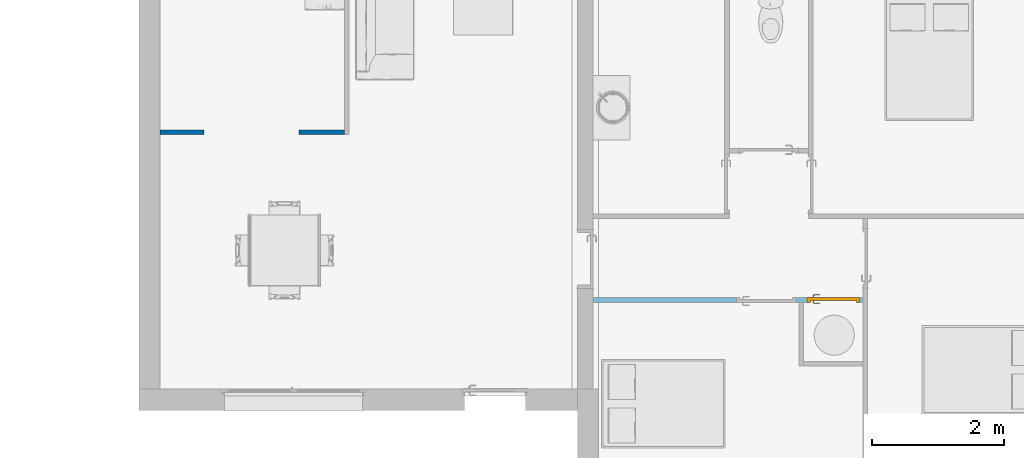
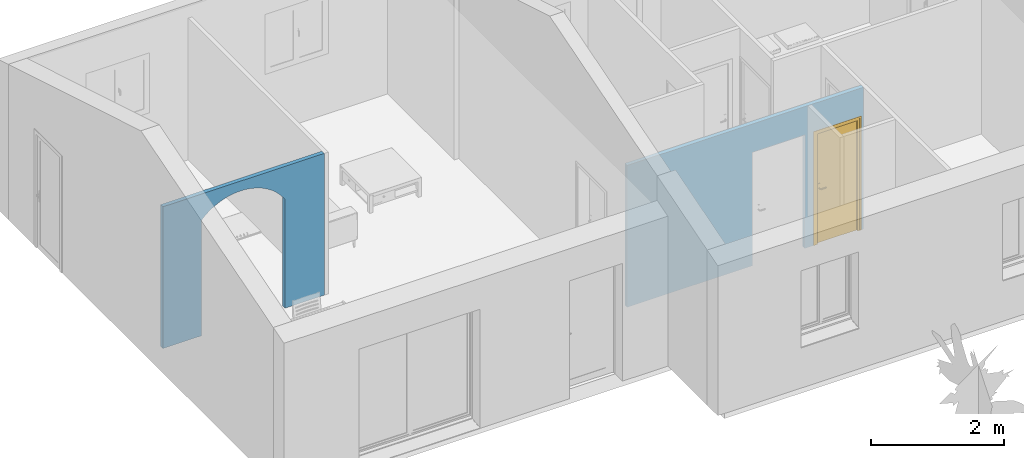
# One storey, part 10 of 18: 1 door, 1 wall, 2 openings, plus 1 element that does not belong to this part.
"""IFC2X3 building model written with IfcOpenShell, lengths in metres."""

import ifcopenshell
import ifcopenshell.guid

model = None  # the IFC model being written
_history = None  # IfcOwnerHistory: only IFC2X3 demands one
_inside = {}  # id of a spatial element -> (the spatial element, [elements in it])
_under = {}  # id of a project, library or spatial element -> (it, [spatial elements below it])
_declared = {}  # id of a project -> (the project, [libraries it declares])
_typed = {}  # id of a type object -> (the type object, [elements of that type])
_made_of = {}  # id of a material, layer set ... -> (it, [elements and type objects made of it])


def new_model(schema):
    """Start an empty IFC model of exactly this schema.

    Asked for "IFC4X3", IfcOpenShell would pick the latest addendum, in which some entities
    have other attributes; the version numbers below select the first issue.
    IFC2X3 requires an IfcOwnerHistory on every rooted entity: one is made here for all.
    """
    global model, _history
    if schema == "IFC4X3":
        model = ifcopenshell.file(schema_version=(4, 3, 0, 0))
    else:
        model = ifcopenshell.file(schema=schema)
    _inside.clear()
    _under.clear()
    _declared.clear()
    _typed.clear()
    _made_of.clear()
    _history = None
    if model.schema == "IFC2X3":
        org = make("IfcOrganization", Name="unknown")
        user = make(
            "IfcPersonAndOrganization",
            ThePerson=make("IfcPerson", FamilyName="unknown"),
            TheOrganization=org,
        )
        app = make(
            "IfcApplication",
            ApplicationDeveloper=org,
            Version="unknown",
            ApplicationFullName="unknown",
            ApplicationIdentifier="unknown",
        )
        _history = make(
            "IfcOwnerHistory",
            OwningUser=user,
            OwningApplication=app,
            ChangeAction="ADDED",
            CreationDate=0,
        )
    return model


def make(cls, **values):
    """One entity of the class cls with the attributes given. An attribute that is None is left unset."""
    return model.create_entity(
        cls, **{name: value for name, value in values.items() if value is not None}
    )


def entity(cls, *values):
    """Any entity or typed value of the class cls, its attributes in the order of the schema. None: left unset."""
    e = model.create_entity(cls)
    for i, value in enumerate(values):
        if value is not None:
            e[i] = value
    return e


def rooted(cls, **values):
    """An entity with a GlobalId (a new one), such as an element, a storey or a relation."""
    return make(cls, GlobalId=ifcopenshell.guid.new(), OwnerHistory=_history, **values)


def si_unit(unit_type, name, prefix=None):
    """IfcSIUnit, for example si_unit("LENGTHUNIT", "METRE", prefix="MILLI")."""
    return make("IfcSIUnit", UnitType=unit_type, Prefix=prefix, Name=name)


def converted_unit(unit_type, name, factor, base, dimensions=None, offset=None):
    """IfcConversionBasedUnit, such as the inch: factor (a typed value) times the base unit."""
    return make(
        "IfcConversionBasedUnit"
        if offset is None
        else "IfcConversionBasedUnitWithOffset",
        ConversionOffset=offset,
        Dimensions=None
        if dimensions is None
        else entity("IfcDimensionalExponents", *dimensions),
        UnitType=unit_type,
        Name=name,
        ConversionFactor=make(
            "IfcMeasureWithUnit", ValueComponent=factor, UnitComponent=base
        ),
    )


def derived_unit(unit_type, elements):
    """IfcDerivedUnit: a product of units, each with its exponent."""
    return make(
        "IfcDerivedUnit",
        Elements=[
            make("IfcDerivedUnitElement", Unit=unit, Exponent=power)
            for unit, power in elements
        ],
        UnitType=unit_type,
    )


def assignment(units):
    """IfcUnitAssignment: the units of a project."""
    return None if units is None else make("IfcUnitAssignment", Units=units)


def point(xyz):
    """IfcCartesianPoint."""
    return None if xyz is None else make("IfcCartesianPoint", Coordinates=xyz)


def direction(xyz):
    """IfcDirection."""
    return None if xyz is None else make("IfcDirection", DirectionRatios=xyz)


def frame(location, z_axis=None, x_axis=None):
    """IfcAxis2Placement3D, a coordinate frame: its origin and axes. An axis left out is left unset."""
    return make(
        "IfcAxis2Placement3D",
        Location=point(location),
        Axis=direction(z_axis),
        RefDirection=direction(x_axis),
    )


def frame_2d(location, x_axis=None):
    """IfcAxis2Placement2D, a coordinate frame in the plane: its origin and x axis."""
    return make(
        "IfcAxis2Placement2D", Location=point(location), RefDirection=direction(x_axis)
    )


def origin():
    """The frame at (0, 0, 0) with its axes left unset."""
    return frame((0.0, 0.0, 0.0))


def place(relative_to, where):
    """IfcLocalPlacement: puts the frame where relative to a parent placement (None: the world)."""
    return make(
        "IfcLocalPlacement", PlacementRelTo=relative_to, RelativePlacement=where
    )


def context(
    kind, dimensions, precision=None, world=None, true_north=None, identifier=None
):
    """IfcGeometricRepresentationContext, for example the 3D "Model" context."""
    return make(
        "IfcGeometricRepresentationContext",
        ContextIdentifier=identifier,
        ContextType=kind,
        CoordinateSpaceDimension=dimensions,
        Precision=precision,
        WorldCoordinateSystem=world,
        TrueNorth=true_north,
    )


def subcontext(parent, identifier, kind, view, scale=None):
    """IfcGeometricRepresentationSubContext, for example "Body" below "Model"."""
    return make(
        "IfcGeometricRepresentationSubContext",
        ContextIdentifier=identifier,
        ContextType=kind,
        ParentContext=parent,
        TargetScale=scale,
        TargetView=view,
    )


def project(units=None, contexts=None):
    """IfcProject with its units and contexts."""
    return rooted(
        "IfcProject",
        Name="project",
        RepresentationContexts=contexts,
        UnitsInContext=assignment(units),
    )


def spatial(cls, under=None, at=None, **own):
    """A site, building, storey or space (cls), placed at a placement, below another one or the project."""
    s = rooted(cls, ObjectPlacement=at, **own)
    if under is not None:
        _under.setdefault(under.id(), (under, []))[1].append(s)
    return s


def profile(cls, at=None, kind="AREA", **sizes):
    """A parametric profile (cls). Its sizes go by their IFC names, for example OverallWidth=200.0."""
    return make(cls, ProfileType=kind, Position=at, **sizes)


def rectangle(**sizes):
    """IfcRectangleProfileDef."""
    return profile("IfcRectangleProfileDef", **sizes)


def extrude(swept, where, along, depth):
    """IfcExtrudedAreaSolid: the profile swept, set in the frame where, extruded along a direction by depth."""
    return make(
        "IfcExtrudedAreaSolid",
        SweptArea=swept,
        Position=where,
        ExtrudedDirection=direction(along),
        Depth=depth,
    )


def faces_of(points, faces, orient=None, outer=None):
    """IfcFace entities. A face is a list of loops; a loop is a list of indices into points, from 0.

    orient and outer hold one flag for each loop. By default every Orientation is true, the
    first loop of a face is its IfcFaceOuterBound and the others are IfcFaceBound.
    """
    made = []
    for i, loops in enumerate(faces):
        bounds = []
        for j, loop in enumerate(loops):
            is_outer = j == 0 if outer is None else outer[i][j]
            bounds.append(
                make(
                    "IfcFaceOuterBound" if is_outer else "IfcFaceBound",
                    Bound=make("IfcPolyLoop", Polygon=[points[k] for k in loop]),
                    Orientation=True if orient is None else orient[i][j],
                )
            )
        made.append(make("IfcFace", Bounds=bounds))
    return made


def faceted_brep(points, faces, orient=None, outer=None, voids=None):
    """IfcFacetedBrep: a solid bounded by flat faces; with voids (closed shells), ...WithVoids."""
    shared = [point(p) for p in points]
    hull = make("IfcClosedShell", CfsFaces=faces_of(shared, faces, orient, outer))
    if voids is None:
        return make("IfcFacetedBrep", Outer=hull)
    return make(
        "IfcFacetedBrepWithVoids",
        Outer=hull,
        Voids=[
            make(cls, CfsFaces=faces_of(shared, fs, o, b)) for cls, fs, o, b in voids
        ],
    )


def shape(context_of_items, identifier, shape_type, items):
    """IfcShapeRepresentation: the items that make up one representation, for example the "Body"."""
    return make(
        "IfcShapeRepresentation",
        ContextOfItems=context_of_items,
        RepresentationIdentifier=identifier,
        RepresentationType=shape_type,
        Items=items,
    )


def source(mapping_origin, context_of_items, identifier, shape_type, items):
    """IfcRepresentationMap: a shape defined once, which mapped items show again and again."""
    return make(
        "IfcRepresentationMap",
        MappingOrigin=mapping_origin,
        MappedRepresentation=shape(context_of_items, identifier, shape_type, items),
    )


def transform(
    local_origin,
    x_axis=None,
    y_axis=None,
    z_axis=None,
    scale=None,
    scale2=None,
    scale3=None,
    uniform=True,
):
    """IfcCartesianTransformationOperator3D, or its non-uniform kind. x_axis, y_axis, z_axis: its Axis1, 2, 3."""
    if uniform:
        return make(
            "IfcCartesianTransformationOperator3D",
            Axis1=direction(x_axis),
            Axis2=direction(y_axis),
            LocalOrigin=point(local_origin),
            Scale=scale,
            Axis3=direction(z_axis),
        )
    return make(
        "IfcCartesianTransformationOperator3DnonUniform",
        Axis1=direction(x_axis),
        Axis2=direction(y_axis),
        LocalOrigin=point(local_origin),
        Scale=scale,
        Axis3=direction(z_axis),
        Scale2=scale2,
        Scale3=scale3,
    )


def mapped(mapping_source, mapping_target):
    """IfcMappedItem: shows the shape of a source again, moved by a transform."""
    return make(
        "IfcMappedItem", MappingSource=mapping_source, MappingTarget=mapping_target
    )


def material(Name=None, Category=None):
    """IfcMaterial."""
    return make("IfcMaterial", Name=Name, Category=Category)


def material_list(materials):
    """IfcMaterialList."""
    return make("IfcMaterialList", Materials=materials)


def layer(
    of_material, thickness, ventilated=None, Name=None, Category=None, Priority=None
):
    """IfcMaterialLayer: one layer of a wall or slab, of a material (None: an air gap)."""
    return make(
        "IfcMaterialLayer",
        Material=of_material,
        LayerThickness=thickness,
        IsVentilated=ventilated,
        Name=Name,
        Category=Category,
        Priority=Priority,
    )


def layer_set(layers, Name=None):
    """IfcMaterialLayerSet."""
    return make("IfcMaterialLayerSet", MaterialLayers=layers, LayerSetName=Name)


def layer_usage(for_layer_set, set_direction, sense, offset, extent=None):
    """IfcMaterialLayerSetUsage: how a layer set lies in its element."""
    return make(
        "IfcMaterialLayerSetUsage",
        ForLayerSet=for_layer_set,
        LayerSetDirection=set_direction,
        DirectionSense=sense,
        OffsetFromReferenceLine=offset,
        ReferenceExtent=extent,
    )


def made_of(thing, what):
    """Note that an element or type object is made of a material, layer set ...; save() writes the relation."""
    if what is not None:
        _made_of.setdefault(what.id(), (what, []))[1].append(thing)
    return thing


def type_object(cls, material=None, **own):
    """A type object (cls), such as IfcWallType, which elements share."""
    return made_of(rooted(cls, **own), material)


def type_shapes(of_type, sources):
    """Give a type object the sources (RepresentationMaps) that its elements show as mapped items."""
    of_type.RepresentationMaps = sources


def element(
    cls,
    number,
    at=None,
    inside=None,
    cuts=None,
    type_object=None,
    material=None,
    context=None,
    identifier="Body",
    shape_type=None,
    held_by="IfcProductDefinitionShape",
    body=None,
    shapes=None,
    **own,
):
    """One element of the class cls, such as IfcWall. Its Tag is "e" and its number.

    at: its placement. inside: the storey or other place that contains it. cuts: it is an
    opening in that element (IfcRelVoidsElement). A single representation is given by context,
    identifier, shape_type and body (its items); several are given by shapes. held_by: the class
    of the entity that holds the representations. save() writes the other relations.
    """
    e = rooted(cls, Tag="e%d" % number, ObjectPlacement=at, **own)
    if body is not None:
        shapes = [shape(context, identifier, shape_type, body)]
    if shapes is not None:
        e.Representation = make(held_by, Representations=shapes)
    if inside is not None:
        _inside.setdefault(inside.id(), (inside, []))[1].append(e)
    if cuts is not None:
        rooted(
            "IfcRelVoidsElement", RelatingBuildingElement=cuts, RelatedOpeningElement=e
        )
    if type_object is not None:
        _typed.setdefault(type_object.id(), (type_object, []))[1].append(e)
    return made_of(e, material)


def fill(opening, filler):
    """IfcRelFillsElement: the door or window that sits in an opening."""
    return rooted(
        "IfcRelFillsElement",
        RelatingOpeningElement=opening,
        RelatedBuildingElement=filler,
    )


def aggregate(whole, parts):
    """IfcRelAggregates: a whole, such as a stair, and the parts it consists of."""
    return rooted("IfcRelAggregates", RelatingObject=whole, RelatedObjects=parts)


def save(model, path):
    """Write the relations noted so far, then the file.

    IfcRelAggregates (storeys below a building ...), IfcRelContainedInSpatialStructure (elements
    in a storey), IfcRelDefinesByType, IfcRelAssociatesMaterial and IfcRelDeclares: one each for
    every whole, place, type object, material and project.
    """
    for whole, parts in _under.values():
        aggregate(whole, parts)
    for where, things in _inside.values():
        rooted(
            "IfcRelContainedInSpatialStructure",
            RelatedElements=things,
            RelatingStructure=where,
        )
    for kind, things in _typed.values():
        rooted("IfcRelDefinesByType", RelatedObjects=things, RelatingType=kind)
    for what, things in _made_of.values():
        rooted("IfcRelAssociatesMaterial", RelatedObjects=things, RelatingMaterial=what)
    for by, libraries in _declared.values():
        rooted("IfcRelDeclares", RelatingContext=by, RelatedDefinitions=libraries)
    model.write(path)


model = new_model("IFC2X3")

# Units and contexts
model_context = context("Model", 3, precision=1e-05, world=origin(), true_north=direction((6.12303176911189e-17, 1.0)))
body_context = subcontext(model_context, "Body", "Model", "MODEL_VIEW")
ifc_project = project(units=[si_unit("LENGTHUNIT", "METRE"), si_unit("AREAUNIT", "SQUARE_METRE"), si_unit("VOLUMEUNIT", "CUBIC_METRE"), converted_unit("PLANEANGLEUNIT", "DEGREE", entity("IfcRatioMeasure", 0.0174532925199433), si_unit("PLANEANGLEUNIT", "RADIAN"), dimensions=[0, 0, 0, 0, 0, 0, 0]), si_unit("MASSUNIT", "GRAM", prefix="KILO"), derived_unit("MASSDENSITYUNIT", [(si_unit("MASSUNIT", "GRAM", prefix="KILO"), 1), (si_unit("LENGTHUNIT", "METRE"), -3)]), derived_unit("MOMENTOFINERTIAUNIT", [(si_unit("LENGTHUNIT", "METRE"), 4)]), si_unit("TIMEUNIT", "SECOND"), si_unit("FREQUENCYUNIT", "HERTZ"), si_unit("THERMODYNAMICTEMPERATUREUNIT", "DEGREE_CELSIUS"), derived_unit("THERMALTRANSMITTANCEUNIT", [(si_unit("MASSUNIT", "GRAM", prefix="KILO"), 1), (si_unit("THERMODYNAMICTEMPERATUREUNIT", "KELVIN"), -1), (si_unit("TIMEUNIT", "SECOND"), -3)]), derived_unit("VOLUMETRICFLOWRATEUNIT", [(si_unit("LENGTHUNIT", "METRE"), 3), (si_unit("TIMEUNIT", "SECOND"), -1)]), si_unit("ELECTRICCURRENTUNIT", "AMPERE"), si_unit("ELECTRICVOLTAGEUNIT", "VOLT"), si_unit("POWERUNIT", "WATT"), si_unit("FORCEUNIT", "NEWTON", prefix="KILO"), si_unit("ILLUMINANCEUNIT", "LUX"), si_unit("LUMINOUSFLUXUNIT", "LUMEN"), si_unit("LUMINOUSINTENSITYUNIT", "CANDELA"), derived_unit("USERDEFINED", [(si_unit("MASSUNIT", "GRAM", prefix="KILO"), -1), (si_unit("LENGTHUNIT", "METRE"), -2), (si_unit("TIMEUNIT", "SECOND"), 3), (si_unit("LUMINOUSFLUXUNIT", "LUMEN"), 1)]), derived_unit("LINEARVELOCITYUNIT", [(si_unit("LENGTHUNIT", "METRE"), 1), (si_unit("TIMEUNIT", "SECOND"), -1)]), si_unit("PRESSUREUNIT", "PASCAL"), derived_unit("USERDEFINED", [(si_unit("LENGTHUNIT", "METRE"), -2), (si_unit("MASSUNIT", "GRAM", prefix="KILO"), 1), (si_unit("TIMEUNIT", "SECOND"), -2)]), derived_unit("LINEARFORCEUNIT", [(si_unit("MASSUNIT", "GRAM", prefix="KILO"), 1), (si_unit("LENGTHUNIT", "METRE"), 1), (si_unit("TIMEUNIT", "SECOND"), -2), (si_unit("LENGTHUNIT", "METRE"), -1)]), derived_unit("PLANARFORCEUNIT", [(si_unit("MASSUNIT", "GRAM", prefix="KILO"), 1), (si_unit("LENGTHUNIT", "METRE"), 1), (si_unit("TIMEUNIT", "SECOND"), -2), (si_unit("LENGTHUNIT", "METRE"), -2)])], contexts=[model_context])

# Site, building, storey
site_placement = place(None, origin())
site = spatial("IfcSite", under=ifc_project, at=site_placement, Name="Surface", CompositionType="ELEMENT")
building_placement = place(site_placement, origin())
building = spatial("IfcBuilding", under=site, at=building_placement, CompositionType="ELEMENT")
storey_placement = place(building_placement, origin())
storey = spatial("IfcBuildingStorey", under=building, at=storey_placement, Name="RDC", CompositionType="ELEMENT", Elevation=-1.94916083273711e-14)

# Wall
ifc_material_1 = material(Name="Mur par défaut")
ifc_layer = layer(ifc_material_1, 0.07)
ifc_layer_set = layer_set([ifc_layer], Name="Mur de base:Int. Plâtre 70 mm")
wall_type = type_object("IfcWallType", Name="Mur de base:Int. Plâtre 70 mm", PredefinedType="STANDARD", material=ifc_layer_set)
wall_1_placement = place(storey_placement, frame((-14.8882926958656, 4.61237977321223, 0.0), z_axis=(0.0, 0.0, 1.0), x_axis=(-1.0, 0.0, 0.0)))
element("IfcWall", 1, at=wall_1_placement, inside=storey, type_object=wall_type, Name="Mur de base:Int. Plâtre 70 mm", ObjectType="Mur de base:Int. Plâtre 70 mm", context=body_context, shape_type="Brep", body=[
    faceted_brep([(0.0, -0.0349999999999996, 0.0), (0.68576908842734, -0.0349999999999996, 0.0), (0.685769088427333, -0.0349999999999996, 2.0), (0.747140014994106, -0.0349999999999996, 2.08476964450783), (0.817826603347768, -0.0349999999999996, 2.16194275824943), (0.896896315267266, -0.0349999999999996, 2.23050122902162), (0.983306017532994, -0.0349999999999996, 2.28954059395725), (1.07591574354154, -0.0349999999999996, 2.33828197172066), (1.17350373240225, -0.0349999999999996, 2.3760823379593), (1.2747825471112, -0.0349999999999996, 2.40244300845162), (1.37841605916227, -0.0349999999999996, 2.41701621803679), (1.48303707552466, -0.0349999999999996, 2.4196097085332), (1.58726537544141, -0.0349999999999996, 2.41018926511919), (1.68972591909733, -0.0349999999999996, 2.38887916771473), (1.78906698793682, -0.0349999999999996, 2.35596055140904), (1.88397801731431, -0.0349999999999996, 2.31186769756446), (1.9732068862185, -0.0349999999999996, 2.25718230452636), (2.05557643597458, -0.0349999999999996, 2.19262581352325), (2.13, -0.0349999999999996, 2.11904989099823), (2.13, -0.0349999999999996, 0.0), (2.8, -0.0349999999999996, 0.0), (2.8, -0.0349999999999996, 2.6), (0.0, -0.0349999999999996, 2.6), (2.8, 0.0350000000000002, 0.0), (2.13, 0.0350000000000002, 0.0), (2.13, 0.0350000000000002, 2.11904989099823), (2.05557643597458, 0.0350000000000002, 2.19262581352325), (1.9732068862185, 0.0350000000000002, 2.25718230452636), (1.88397801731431, 0.0350000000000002, 2.31186769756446), (1.78906698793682, 0.0350000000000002, 2.35596055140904), (1.68972591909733, 0.0350000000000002, 2.38887916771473), (1.58726537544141, 0.0350000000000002, 2.41018926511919), (1.48303707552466, 0.0350000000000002, 2.4196097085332), (1.37841605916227, 0.0350000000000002, 2.41701621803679), (1.2747825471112, 0.0350000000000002, 2.40244300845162), (1.17350373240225, 0.0350000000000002, 2.3760823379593), (1.07591574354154, 0.0350000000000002, 2.33828197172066), (0.983306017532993, 0.0350000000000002, 2.28954059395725), (0.896896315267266, 0.0350000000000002, 2.23050122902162), (0.817826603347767, 0.0350000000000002, 2.16194275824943), (0.747140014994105, 0.0350000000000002, 2.08476964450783), (0.685769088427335, 0.0350000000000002, 2.0), (0.685769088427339, 0.0350000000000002, 0.0), (0.0, 0.0350000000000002, 0.0), (0.0, 0.0350000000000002, 2.6), (2.8, 0.0350000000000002, 2.6)], [[[0, 1, 2, 3, 4, 5, 6, 7, 8, 9, 10, 11, 12, 13, 14, 15, 16, 17, 18, 19, 20, 21, 22]], [[23, 24, 25, 26, 27, 28, 29, 30, 31, 32, 33, 34, 35, 36, 37, 38, 39, 40, 41, 42, 43, 44, 45]], [[43, 0, 22, 44]], [[20, 19, 24, 23]], [[1, 0, 43, 42]], [[21, 20, 23, 45]], [[22, 21, 45, 44]], [[2, 1, 42, 41]], [[41, 40, 3, 2]], [[38, 5, 4, 39]], [[40, 39, 4, 3]], [[35, 8, 7, 36]], [[7, 6, 37, 36]], [[5, 38, 37, 6]], [[34, 9, 8, 35]], [[34, 33, 10, 9]], [[13, 12, 31, 30]], [[12, 11, 32, 31]], [[14, 13, 30, 29]], [[26, 17, 16, 27]], [[16, 15, 28, 27]], [[15, 14, 29, 28]], [[18, 17, 26, 25]], [[33, 32, 11, 10]], [[19, 18, 25, 24]]]),
])

# Wall, openings, door
ifc_layer_usage = layer_usage(ifc_layer_set, "AXIS2", "NEGATIVE", 0.035)
wall_2_placement = place(storey_placement, frame((-11.1082926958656, 2.06237977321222, 0.0)))
wall_2 = element("IfcWallStandardCase", 2, at=wall_2_placement, inside=storey, type_object=wall_type, material=ifc_layer_usage, Name="Mur de base:Int. Plâtre 70 mm", ObjectType="Mur de base:Int. Plâtre 70 mm", context=body_context, shape_type="SweptSolid", body=[
    extrude(rectangle(XDim=4.1, YDim=0.0699999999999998, at=frame_2d((2.05, -2.77555756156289e-17), x_axis=(-1.0, 0.0))), origin(), (0.0, 0.0, 1.0), 2.6),
])
opening_1_placement = place(wall_2_placement, frame((3.08, 0.0349999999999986, 0.0)))
element("IfcOpeningElement", 3, at=opening_1_placement, cuts=wall_2, Name="Int. Simple:PP (0.83m x 2.04m):1", ObjectType="Opening", context=body_context, shape_type="SweptSolid", body=[
    extrude(rectangle(XDim=2.075, YDim=0.9, at=frame_2d((1.0375, 0.45), x_axis=(1.0, 0.0))), frame((0.0, 0.0, 0.0), z_axis=(0.0, -1.0, 0.0), x_axis=(0.0, 0.0, 1.0)), (0.0, 0.0, 1.0), 0.07),
])
opening_2_placement = place(wall_2_placement, frame((3.25, -0.0349999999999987, 0.0)))
opening_2 = element("IfcOpeningElement", 4, at=opening_2_placement, cuts=wall_2, Name="Int. Simple:PP (0.73m x 2.04m):1", ObjectType="Opening", context=body_context, shape_type="SweptSolid", body=[
    extrude(rectangle(XDim=2.075, YDim=0.799999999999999, at=frame_2d((1.0375, 0.4), x_axis=(1.0, 0.0))), frame((0.0, 0.0, 0.0), z_axis=(0.0, 1.0, 0.0), x_axis=(0.0, 0.0, 1.0)), (0.0, 0.0, 1.0), 0.07),
])
ifc_material_2 = material(Name="Finition Peinture - Blanc satiné")
ifc_material_3 = material(Name="Bois - Panneau de porte")
ifc_material_4 = material(Name="Bois - Cadre de porte")
ifc_material_list_1 = material_list([ifc_material_2, ifc_material_3, ifc_material_4])
ifc_material_list_2 = material_list([ifc_material_2, ifc_material_4, ifc_material_4, ifc_material_3])
door_style = type_object("IfcDoorStyle", Name="Int. Simple:PP (0.73m x 2.04m)", ConstructionType="NOTDEFINED", OperationType="NOTDEFINED", ParameterTakesPrecedence=False, Sizeable=False, material=ifc_material_list_2)
shared_shape = source(origin(), body_context, "Body", "Brep", [
    faceted_brep([(0.795000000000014, -0.00500000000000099, 0.870000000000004), (0.795000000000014, -0.00500000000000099, 1.08), (0.785352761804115, -0.00500000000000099, 1.08399601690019), (0.775000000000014, -0.00500000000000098, 1.08535898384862), (0.764647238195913, -0.00500000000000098, 1.08399601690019), (0.755000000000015, -0.00500000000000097, 1.08), (0.755000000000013, -0.00500000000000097, 0.870000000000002), (0.764647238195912, -0.00500000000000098, 0.866003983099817), (0.775000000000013, -0.00500000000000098, 0.86464101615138), (0.785352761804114, -0.00500000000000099, 0.866003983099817), (0.795000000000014, 0.0, 1.08), (0.795000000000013, 0.0, 0.870000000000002), (0.785352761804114, 0.0, 0.866003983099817), (0.775000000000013, 0.0, 0.86464101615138), (0.764647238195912, 0.0, 0.866003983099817), (0.755000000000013, 0.0, 0.870000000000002), (0.755000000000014, 0.0, 1.08), (0.764647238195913, 0.0, 1.08399601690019), (0.775000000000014, 0.0, 1.08535898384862), (0.785352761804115, 0.0, 1.08399601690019)], [[[0, 1, 2, 3, 4, 5, 6, 7, 8, 9]], [[10, 11, 12, 13, 14, 15, 16, 17, 18, 19]], [[9, 12, 11, 0]], [[8, 13, 12, 9]], [[7, 14, 13, 8]], [[7, 6, 15, 14]], [[15, 6, 5, 16]], [[4, 17, 16, 5]], [[3, 18, 17, 4]], [[2, 19, 18, 3]], [[2, 1, 10, 19]], [[11, 10, 1, 0]]]),
    faceted_brep([(0.795000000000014, 0.039999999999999, 0.870000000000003), (0.795000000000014, 0.039999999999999, 1.08), (0.785352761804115, 0.039999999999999, 1.08399601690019), (0.775000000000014, 0.039999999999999, 1.08535898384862), (0.764647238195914, 0.039999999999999, 1.08399601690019), (0.755000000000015, 0.039999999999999, 1.08), (0.755000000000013, 0.039999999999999, 0.870000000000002), (0.764647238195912, 0.039999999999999, 0.866003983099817), (0.775000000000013, 0.039999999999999, 0.86464101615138), (0.785352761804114, 0.039999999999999, 0.866003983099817), (0.775000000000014, 0.044999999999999, 1.08535898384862), (0.785352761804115, 0.044999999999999, 1.08399601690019), (0.795000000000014, 0.044999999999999, 1.08), (0.795000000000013, 0.044999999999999, 0.870000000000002), (0.785352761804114, 0.044999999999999, 0.866003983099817), (0.775000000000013, 0.044999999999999, 0.86464101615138), (0.764647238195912, 0.044999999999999, 0.866003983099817), (0.755000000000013, 0.044999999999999, 0.870000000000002), (0.755000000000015, 0.044999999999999, 1.08), (0.764647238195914, 0.044999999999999, 1.08399601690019)], [[[0, 1, 2, 3, 4, 5, 6, 7, 8, 9]], [[10, 11, 12, 13, 14, 15, 16, 17, 18, 19]], [[4, 19, 18, 5]], [[3, 10, 19, 4]], [[2, 11, 10, 3]], [[2, 1, 12, 11]], [[13, 12, 1, 0]], [[9, 14, 13, 0]], [[8, 15, 14, 9]], [[7, 16, 15, 8]], [[7, 6, 17, 16]], [[17, 6, 5, 18]]]),
    faceted_brep([(0.772974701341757, -0.00500000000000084, 1.00778044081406), (0.777025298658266, -0.00500000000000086, 1.00778044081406), (0.781000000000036, -0.00500000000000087, 1.00699999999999), (0.781000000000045, -0.00500000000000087, 0.992999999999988), (0.777025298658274, -0.00500000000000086, 0.99221955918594), (0.772974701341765, -0.00500000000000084, 0.992219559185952), (0.768999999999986, -0.00500000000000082, 0.993000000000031), (0.768999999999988, -0.00500000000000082, 1.007), (0.777025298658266, -0.0310045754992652, 1.00778044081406), (0.781000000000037, -0.0326509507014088, 1.007), (0.772974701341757, -0.0293267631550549, 1.00778044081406), (0.759298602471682, -0.0430028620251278, 1.00778044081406), (0.760976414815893, -0.047053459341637, 1.00778044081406), (0.768999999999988, -0.0276803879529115, 1.007), (0.768999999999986, -0.0276803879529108, 0.993000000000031), (0.772974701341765, -0.0293267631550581, 0.992219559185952), (0.777025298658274, -0.0310045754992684, 0.99221955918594), (0.760976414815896, -0.0470534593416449, 0.99221955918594), (0.759298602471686, -0.0430028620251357, 0.992219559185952), (0.781000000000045, -0.0326509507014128, 0.992999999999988), (0.762622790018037, -0.051028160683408, 1.007), (0.757652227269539, -0.0390281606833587, 1.007), (0.757652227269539, -0.0390281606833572, 0.993000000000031), (0.76262279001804, -0.0510281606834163, 0.992999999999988), (0.674981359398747, -0.0510281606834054, 1.007), (0.674981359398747, -0.0470534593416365, 1.00778044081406), (0.674981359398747, -0.0430028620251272, 1.00778044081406), (0.674981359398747, -0.0390281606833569, 1.00699999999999), (0.674981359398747, -0.0390281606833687, 0.993000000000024), (0.674981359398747, -0.0430028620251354, 0.992219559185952), (0.674981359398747, -0.0470534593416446, 0.99221955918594), (0.674981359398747, -0.0510281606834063, 0.992999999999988), (0.71713998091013, -0.0450281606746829, 1.0078786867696), (0.722692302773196, -0.0510281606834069, 1.007), (0.716316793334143, -0.0390281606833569, 1.007), (0.716316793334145, -0.0390281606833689, 0.993000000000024), (0.717139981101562, -0.0450281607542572, 0.992121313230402), (0.722692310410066, -0.0510281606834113, 0.992999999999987)], [[[0, 1, 2, 3, 4, 5, 6, 7]], [[2, 1, 8, 9]], [[1, 0, 10, 11, 12, 8]], [[0, 7, 13, 10]], [[14, 13, 7, 6]], [[5, 15, 14, 6]], [[5, 4, 16, 17, 18, 15]], [[3, 19, 16, 4]], [[9, 19, 3, 2]], [[9, 8, 12, 20]], [[10, 13, 21, 11]], [[22, 21, 13, 14]], [[14, 15, 18, 22]], [[16, 19, 23, 17]], [[20, 23, 19, 9]], [[24, 25, 26, 27, 28, 29, 30, 31]], [[32, 25, 33]], [[33, 25, 24]], [[33, 20, 12]], [[11, 34, 32]], [[34, 11, 21]], [[27, 26, 34]], [[32, 26, 25]], [[32, 34, 26]], [[32, 33, 12]], [[11, 32, 12]], [[21, 22, 35, 28, 27, 34]], [[36, 29, 35]], [[30, 36, 37]], [[18, 35, 22]], [[29, 28, 35]], [[30, 37, 31]], [[37, 17, 23]], [[36, 17, 37]], [[36, 18, 17]], [[36, 35, 18]], [[29, 36, 30]], [[23, 20, 33, 24, 31, 37]]]),
    faceted_brep([(0.772974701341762, 0.0449999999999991, 0.992219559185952), (0.777025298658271, 0.0449999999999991, 0.99221955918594), (0.781000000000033, 0.0449999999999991, 0.992999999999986), (0.781000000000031, 0.0449999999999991, 1.007), (0.777025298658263, 0.0449999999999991, 1.00778044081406), (0.772974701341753, 0.0449999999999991, 1.00778044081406), (0.768999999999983, 0.0449999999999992, 1.007), (0.768999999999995, 0.0449999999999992, 0.993000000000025), (0.768999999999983, 0.0674852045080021, 1.007), (0.768999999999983, 0.0674852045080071, 0.993000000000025), (0.772974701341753, 0.0691315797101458, 1.00778044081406), (0.777025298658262, 0.070809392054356, 1.00778044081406), (0.760838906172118, 0.0869957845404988, 1.00778044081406), (0.759161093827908, 0.0829451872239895, 1.00778044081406), (0.781000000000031, 0.0724557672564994, 1.007), (0.781000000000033, 0.0724557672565, 0.992999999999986), (0.777025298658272, 0.0708093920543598, 0.99221955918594), (0.772974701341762, 0.0691315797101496, 0.992219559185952), (0.759161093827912, 0.0829451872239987, 0.992219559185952), (0.760838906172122, 0.0869957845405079, 0.99221955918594), (0.757514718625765, 0.0789704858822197, 1.007), (0.757514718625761, 0.0789704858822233, 0.993000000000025), (0.762485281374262, 0.0909704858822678, 1.007), (0.762485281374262, 0.0909704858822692, 0.992999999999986), (0.674954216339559, 0.0829451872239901, 1.00778044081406), (0.674954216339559, 0.0869957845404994, 1.00778044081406), (0.674954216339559, 0.0909704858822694, 1.007), (0.674954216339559, 0.0909704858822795, 0.992999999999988), (0.674954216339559, 0.0869957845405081, 0.99221955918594), (0.674954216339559, 0.0829451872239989, 0.992219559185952), (0.674954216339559, 0.07897048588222, 0.993000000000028), (0.674954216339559, 0.0789704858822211, 1.007), (0.716234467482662, 0.0789704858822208, 1.007), (0.716234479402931, 0.0789704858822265, 0.993000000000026), (0.717057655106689, 0.0849704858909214, 1.0078786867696), (0.722554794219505, 0.0909704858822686, 1.007), (0.722554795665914, 0.0909704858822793, 0.992999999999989), (0.717057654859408, 0.0849704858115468, 0.992121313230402)], [[[0, 1, 2, 3, 4, 5, 6, 7]], [[8, 9, 7, 6]], [[5, 10, 8, 6]], [[5, 4, 11, 12, 13, 10]], [[3, 14, 11, 4]], [[14, 3, 2, 15]], [[2, 1, 16, 15]], [[1, 0, 17, 18, 19, 16]], [[0, 7, 9, 17]], [[20, 21, 9, 8]], [[8, 10, 13, 20]], [[14, 22, 12, 11]], [[23, 22, 14, 15]], [[15, 16, 19, 23]], [[17, 9, 21, 18]], [[24, 25, 26, 27, 28, 29, 30, 31]], [[21, 20, 32, 31, 30, 33]], [[34, 24, 32]], [[25, 34, 35]], [[13, 32, 20]], [[24, 31, 32]], [[25, 35, 26]], [[35, 12, 22]], [[34, 12, 35]], [[34, 13, 12]], [[34, 32, 13]], [[24, 34, 25]], [[22, 23, 36, 27, 26, 35]], [[37, 28, 36]], [[36, 28, 27]], [[36, 23, 19]], [[18, 33, 37]], [[33, 18, 21]], [[30, 29, 33]], [[37, 29, 28]], [[37, 33, 29]], [[37, 36, 19]], [[18, 37, 19]]]),
    faceted_brep([(0.835000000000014, 0.0400000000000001, 2.04), (0.835000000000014, 0.0400000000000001, 0.0), (0.105000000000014, 0.0400000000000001, 0.0), (0.105000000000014, 0.0400000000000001, 2.04), (0.835000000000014, 0.0, 2.04), (0.105000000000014, 0.0, 2.04), (0.105000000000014, 0.0, 0.0), (0.835000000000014, 0.0, 0.0)], [[[0, 1, 2, 3]], [[4, 5, 6, 7]], [[3, 5, 4, 0]], [[2, 6, 5, 3]], [[1, 7, 6, 2]], [[0, 4, 7, 1]]]),
    faceted_brep([(0.870000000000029, 0.0, 0.0), (0.835000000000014, 0.0, 0.0), (0.835000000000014, 0.04, 0.0), (0.820000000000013, 0.04, 0.0), (0.820000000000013, 0.0699999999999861, 0.0), (0.870000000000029, 0.0699999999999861, 0.0), (0.870000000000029, 0.0699999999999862, 2.07500000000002), (0.870000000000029, 0.0, 2.07500000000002), (0.820000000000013, 0.0699999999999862, 2.025), (0.120000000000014, 0.0699999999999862, 2.025), (0.120000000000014, 0.0699999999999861, 0.0), (0.0699999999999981, 0.0699999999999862, 0.0), (0.0699999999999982, 0.0699999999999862, 2.07500000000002), (0.820000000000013, 0.04, 2.025), (0.835000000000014, 0.04, 2.04), (0.105000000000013, 0.04, 2.04), (0.105000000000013, 0.04, 0.0), (0.120000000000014, 0.04, 0.0), (0.120000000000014, 0.04, 2.025), (0.835000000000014, 0.0, 2.04), (0.0699999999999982, 0.0, 2.07500000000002), (0.0699999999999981, 0.0, 0.0), (0.105000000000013, 0.0, 0.0), (0.105000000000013, 0.0, 2.04)], [[[0, 1, 2, 3, 4, 5]], [[5, 6, 7, 0]], [[4, 8, 9, 10, 11, 12, 6, 5]], [[3, 13, 8, 4]], [[2, 14, 15, 16, 17, 18, 13, 3]], [[1, 19, 14, 2]], [[0, 7, 20, 21, 22, 23, 19, 1]], [[12, 11, 21, 20]], [[21, 11, 10, 17, 16, 22]], [[18, 17, 10, 9]], [[23, 22, 16, 15]], [[6, 12, 20, 7]], [[13, 18, 9, 8]], [[19, 23, 15, 14]]]),
    faceted_brep([(0.855000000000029, 0.0699999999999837, 0.0), (0.855000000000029, 0.0749999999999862, 0.0), (0.885000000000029, 0.0749999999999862, 0.0), (0.885000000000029, 0.0699999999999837, 0.0), (0.885000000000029, 0.0699999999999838, 2.09000000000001), (0.0550000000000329, 0.0699999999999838, 2.09000000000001), (0.055000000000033, 0.0699999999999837, 0.0), (0.0850000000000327, 0.0699999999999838, 0.0), (0.0850000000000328, 0.0699999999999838, 2.06000000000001), (0.855000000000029, 0.0699999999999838, 2.06000000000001), (0.885000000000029, 0.0749999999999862, 2.09000000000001), (0.855000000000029, 0.0749999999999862, 2.06000000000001), (0.0850000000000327, 0.0749999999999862, 2.06000000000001), (0.0850000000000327, 0.0749999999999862, 0.0), (0.055000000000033, 0.0749999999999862, 0.0), (0.0550000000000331, 0.0749999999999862, 2.09000000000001)], [[[0, 1, 2, 3]], [[3, 4, 5, 6, 7, 8, 9, 0]], [[2, 10, 4, 3]], [[1, 11, 12, 13, 14, 15, 10, 2]], [[0, 9, 11, 1]], [[7, 6, 14, 13]], [[8, 7, 13, 12]], [[15, 14, 6, 5]], [[10, 15, 5, 4]], [[9, 8, 12, 11]]]),
    faceted_brep([(0.885000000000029, -0.005, 0.0), (0.885000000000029, -0.005, 2.09000000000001), (0.0550000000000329, -0.005, 2.09000000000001), (0.055000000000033, -0.005, 0.0), (0.0850000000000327, -0.005, 0.0), (0.0850000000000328, -0.005, 2.06000000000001), (0.855000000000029, -0.005, 2.06000000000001), (0.855000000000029, -0.005, 0.0), (0.885000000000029, 0.0, 0.0), (0.885000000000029, 0.0, 2.09000000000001), (0.855000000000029, 0.0, 0.0), (0.855000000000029, 0.0, 2.06000000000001), (0.0850000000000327, 0.0, 2.06000000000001), (0.0850000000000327, 0.0, 0.0), (0.055000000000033, 0.0, 0.0), (0.0550000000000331, 0.0, 2.09000000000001)], [[[0, 1, 2, 3, 4, 5, 6, 7]], [[8, 9, 1, 0]], [[10, 11, 12, 13, 14, 15, 9, 8]], [[7, 6, 11, 10]], [[5, 4, 13, 12]], [[15, 14, 3, 2]], [[9, 15, 2, 1]], [[6, 5, 12, 11]], [[4, 3, 14, 13]], [[7, 10, 8, 0]]]),
])
type_shapes(door_style, [shared_shape])
door_placement = place(opening_2_placement, frame((0.870000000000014, 0.0699999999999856, 0.0), z_axis=(0.0, 0.0, 1.0), x_axis=(-1.0, 0.0, 0.0)))
door = element("IfcDoor", 5, at=door_placement, inside=storey, type_object=door_style, material=ifc_material_list_1, Name="Int. Simple:PP (0.73m x 2.04m)", ObjectType="Int. Simple:PP (0.73m x 2.04m)", OverallHeight=2.075, OverallWidth=0.8, context=body_context, shape_type="MappedRepresentation", body=[
    mapped(shared_shape, transform((0.0, 0.0, 0.0), scale=1.0)),
])
fill(opening_2, door)

save(model, "model.ifc")
